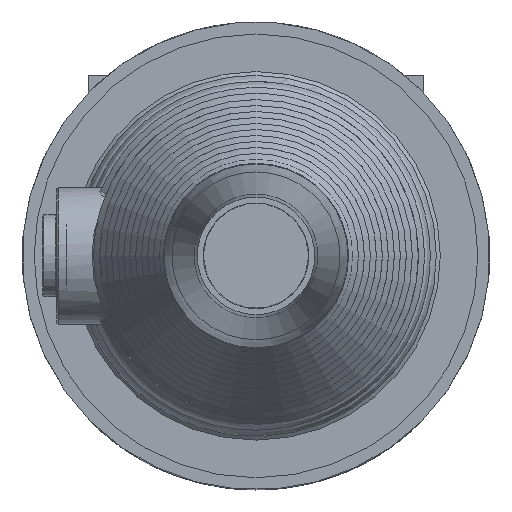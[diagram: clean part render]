
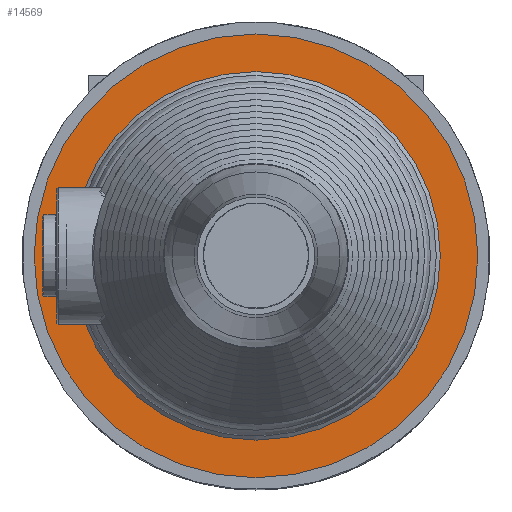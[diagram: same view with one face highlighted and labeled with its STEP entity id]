
A CAD part, left-side view. The second image highlights one B-rep face of the part: STEP entity #14569.
In plain terms, the highlighted conical face has half-angle 90 degrees and reference radius 84.659 mm.
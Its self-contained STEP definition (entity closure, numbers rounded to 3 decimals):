
#3457=FACE_BOUND('',#4578,.T.);
#3663=FACE_OUTER_BOUND('',#4577,.T.);
#4577=EDGE_LOOP('',(#9855));
#4578=EDGE_LOOP('',(#9856));
#5696=CIRCLE('',#15491,76.819);
#5697=CIRCLE('',#15492,92.5);
#6179=VERTEX_POINT('',#19261);
#6180=VERTEX_POINT('',#19263);
#7665=EDGE_CURVE('',#6179,#6179,#5696,.T.);
#7666=EDGE_CURVE('',#6180,#6180,#5697,.T.);
#9855=ORIENTED_EDGE('',*,*,#7665,.T.);
#9856=ORIENTED_EDGE('',*,*,#7666,.F.);
#14236=CONICAL_SURFACE('',#15490,84.659,90.);
#14569=ADVANCED_FACE('',(#3663,#3457),#14236,.F.);
#15490=AXIS2_PLACEMENT_3D('',#19260,#16465,#16466);
#15491=AXIS2_PLACEMENT_3D('',#19262,#16467,#16468);
#15492=AXIS2_PLACEMENT_3D('',#19264,#16469,#16470);
#16465=DIRECTION('center_axis',(-1.,0.,0.));
#16466=DIRECTION('ref_axis',(0.,-1.,0.));
#16467=DIRECTION('center_axis',(1.,0.,0.));
#16468=DIRECTION('ref_axis',(0.,0.,
-1.));
#16469=DIRECTION('center_axis',(1.,0.,0.));
#16470=DIRECTION('ref_axis',(0.,0.,
-1.));
#19260=CARTESIAN_POINT('Origin',(-191.652,0.,
0.));
#19261=CARTESIAN_POINT('',(-191.652,-76.819,0.));
#19262=CARTESIAN_POINT('Origin',(-191.652,0.,
0.));
#19263=CARTESIAN_POINT('',(-191.652,-92.5,0.));
#19264=CARTESIAN_POINT('Origin',(-191.652,0.,
0.));
